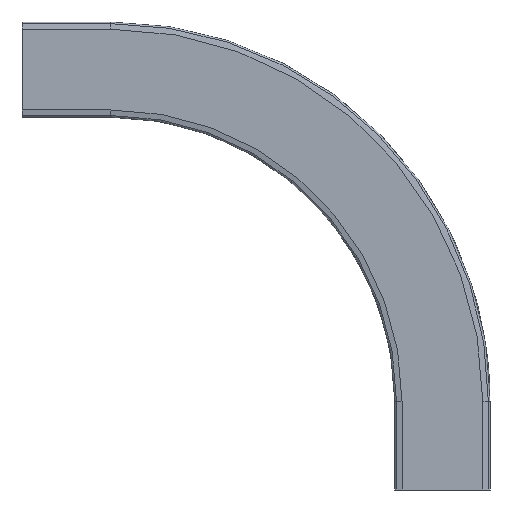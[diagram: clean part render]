
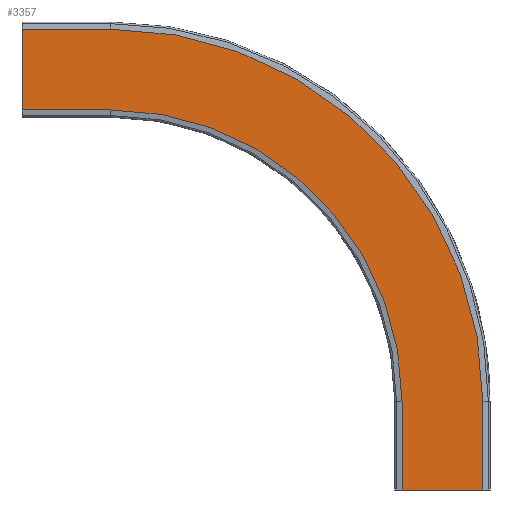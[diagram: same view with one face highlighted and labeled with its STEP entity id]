
A CAD part, front view. The second image highlights one B-rep face of the part: STEP entity #3357.
In plain terms, the highlighted planar face has unit normal (0, -1, 0).
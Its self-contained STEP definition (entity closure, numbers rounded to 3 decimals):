
#349=FACE_OUTER_BOUND('',#529,.T.);
#529=EDGE_LOOP('',(#3063,#3064,#3065,#3066,#3067,#3068,#3069,#3070));
#619=CIRCLE('',#3610,336.5);
#622=CIRCLE('',#3616,263.5);
#940=LINE('',#5997,#1286);
#945=LINE('',#6006,#1291);
#947=LINE('',#6011,#1293);
#962=LINE('',#6051,#1308);
#967=LINE('',#6062,#1313);
#968=LINE('',#6064,#1314);
#1286=VECTOR('',#4383,10.);
#1291=VECTOR('',#4390,10.);
#1293=VECTOR('',#4394,10.);
#1308=VECTOR('',#4435,10.);
#1313=VECTOR('',#4448,10.);
#1314=VECTOR('',#4451,10.);
#1610=VERTEX_POINT('',#5994);
#1611=VERTEX_POINT('',#5996);
#1614=VERTEX_POINT('',#6003);
#1615=VERTEX_POINT('',#6008);
#1625=VERTEX_POINT('',#6034);
#1627=VERTEX_POINT('',#6044);
#1628=VERTEX_POINT('',#6049);
#1630=VERTEX_POINT('',#6060);
#2078=EDGE_CURVE('',#1611,#1610,#940,.T.);
#2083=EDGE_CURVE('',#1611,#1614,#945,.T.);
#2085=EDGE_CURVE('',#1610,#1615,#947,.T.);
#2098=EDGE_CURVE('',#1615,#1625,#619,.T.);
#2104=EDGE_CURVE('',#1614,#1627,#622,.T.);
#2106=EDGE_CURVE('',#1625,#1628,#962,.T.);
#2111=EDGE_CURVE('',#1627,#1630,#967,.T.);
#2112=EDGE_CURVE('',#1628,#1630,#968,.T.);
#3063=ORIENTED_EDGE('',*,*,#2112,.T.);
#3064=ORIENTED_EDGE('',*,*,#2111,.F.);
#3065=ORIENTED_EDGE('',*,*,#2104,.F.);
#3066=ORIENTED_EDGE('',*,*,#2083,.F.);
#3067=ORIENTED_EDGE('',*,*,#2078,.T.);
#3068=ORIENTED_EDGE('',*,*,#2085,.T.);
#3069=ORIENTED_EDGE('',*,*,#2098,.T.);
#3070=ORIENTED_EDGE('',*,*,#2106,.T.);
#3186=PLANE('',#3622);
#3357=ADVANCED_FACE('',(#349),#3186,.T.);
#3610=AXIS2_PLACEMENT_3D('',#6036,#4415,#4416);
#3616=AXIS2_PLACEMENT_3D('',#6047,#4430,#4431);
#3622=AXIS2_PLACEMENT_3D('',#6063,#4449,#4450);
#4383=DIRECTION('',(1.,0.,0.));
#4390=DIRECTION('',(0.,0.,1.));
#4394=DIRECTION('',(0.,0.,1.));
#4415=DIRECTION('center_axis',(0.,-1.,0.));
#4416=DIRECTION('ref_axis',(1.,0.,0.));
#4430=DIRECTION('center_axis',(0.,-1.,0.));
#4431=DIRECTION('ref_axis',(1.,0.,0.));
#4435=DIRECTION('',(-1.,0.,0.));
#4448=DIRECTION('',(-1.,0.,0.));
#4449=DIRECTION('center_axis',(0.,-1.,0.));
#4450=DIRECTION('ref_axis',(1.,0.,0.));
#4451=DIRECTION('',(0.,0.,-1.));
#5994=CARTESIAN_POINT('',(36.5,-11.,0.));
#5996=CARTESIAN_POINT('',(-36.5,-11.,0.));
#5997=CARTESIAN_POINT('',(-36.5,-11.,0.));
#6003=CARTESIAN_POINT('',(-36.5,-11.,80.));
#6006=CARTESIAN_POINT('',(-36.5,-11.,0.));
#6008=CARTESIAN_POINT('',(36.5,-11.,80.));
#6011=CARTESIAN_POINT('',(36.5,-11.,0.));
#6034=CARTESIAN_POINT('',(-300.,-11.,416.5));
#6036=CARTESIAN_POINT('Origin',(-300.,-11.,80.));
#6044=CARTESIAN_POINT('',(-300.,-11.,343.5));
#6047=CARTESIAN_POINT('Origin',(-300.,-11.,80.));
#6049=CARTESIAN_POINT('',(-380.,-11.,416.5));
#6051=CARTESIAN_POINT('',(251.239,-11.,416.5));
#6060=CARTESIAN_POINT('',(-380.,-11.,343.5));
#6062=CARTESIAN_POINT('',(251.239,-11.,343.5));
#6063=CARTESIAN_POINT('Origin',(251.239,-11.,416.5));
#6064=CARTESIAN_POINT('',(-380.,-11.,399.75));
